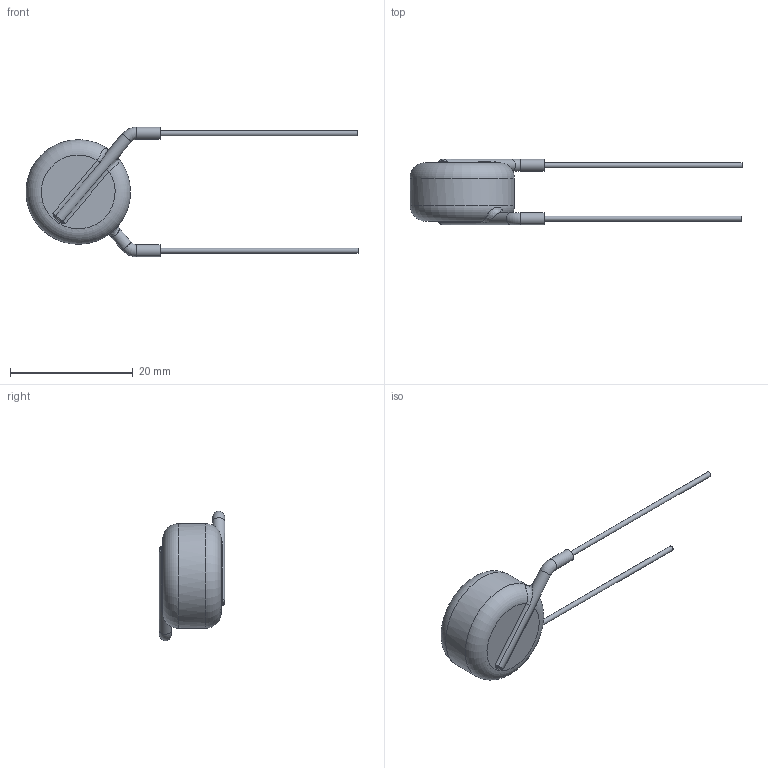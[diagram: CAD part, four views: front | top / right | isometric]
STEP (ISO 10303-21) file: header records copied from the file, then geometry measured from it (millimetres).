
FILE_DESCRIPTION((''),'2;1');
FILE_NAME('I:\Marketing\M6t1\3D-Models\Zchng-Werk-3\Upload for homepage\Ceramite\Y5U-15kV\615R150GAD10\615R150GAD10.stp','2015-08-28T12:23:42',(''),(''),'Autodesk Inventor 2013','Autodesk Inventor 2013','');
FILE_SCHEMA(('AUTOMOTIVE_DESIGN { 1 0 10303 214 1 1 1 1 }'));
Length unit declared in the file: centimetre
Products named in the file (1): 615R150GAD10
Bounding box: 54 x 10.67 x 21.07 mm (x, y, z)
Volume: 2140.9 mm3; surface area: 1135.4 mm2
Topology: 1 solids, 1 shells, 42 faces, 94 edges, 52 vertices
Faces by surface type: cylinder 13, torus 11, bspline 10, plane 8
Full cylindrical faces by diameter (mm): 0.81 x2, 1.97 x4, 17 x1
Entity records: 1466 total; most frequent: CARTESIAN_POINT 633, DIRECTION 152, ORIENTED_EDGE 140, AXIS2_PLACEMENT_3D 70, EDGE_CURVE 70, EDGE_LOOP 54, VERTEX_POINT 44, STYLED_ITEM 42
